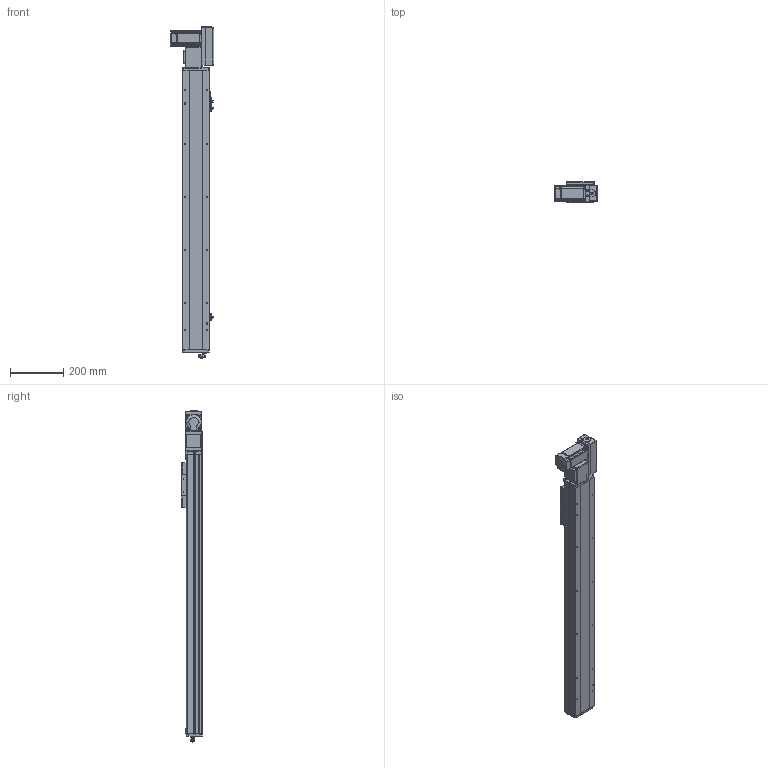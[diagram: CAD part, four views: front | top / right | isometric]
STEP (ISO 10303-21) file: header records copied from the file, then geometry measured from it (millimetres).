
FILE_DESCRIPTION (( 'STEP AP214' ), '1' );
FILE_NAME ('TPE10-L41.6-800-R-P20-C4.STEP', '2023-03-13T02:45:46', ( '' ), ( '' ), 'SwSTEP 2.0', 'SolidWorks 2020', '' );
FILE_SCHEMA (( 'AUTOMOTIVE_DESIGN' ));
Length unit declared in the file: millimetre
Products named in the file (16): 葩璃 TPF10-L-008 耜醱啣^TPE10-L41.6-R-P20-C4; hexagon socket head cap screws gb_GB_FASTENER_SCREWS_HSHCS M3X6-N; 葩璃 侂狟100W^TPE10-L41.6-R-P20-C4; 葩璃 pm-t65-672^TPE10-L41.6-R-P20-C4; 葩璃 TPE10 賑雄殤 TPE10^TPE10-L41.6-R-P20-C4; 葩璃 TPE10-L-002 耜裔ZTMT-102B-04^TPE10-L41.6-R-P20-C4; TPE10-L41.6-800-R-P20-C4; 葩璃 TPE10-L-001 菁釱MZ-102A-01^TPE10-L41.6-R-P20-C4; 葩璃 TPF10 詩湍揤啣 TPF10 12^TPE10-L41.6-R-P20-C4; 葩璃 詩湍75^TPE10-L41.6-R-P20-C4; hexagon head bolts-full thread gb_GB_FASTENER_BOLT_STBAB A M5X16-N; 葩璃 侂狟400W^TPE10-L41.6-R-P20-C4; 葩璃 TPT10-L-009 萇儂啣^TPE10-L41.6-R-P20-C4_200W; hex nuts, style 1-grades ab gb_GB_FASTENER_NUT_SNAB1 M3-N; 葩璃 PL8-02^TPE10-L41.6-R-P20-C4; 葩璃 TPE10-007 々湍釱MZ-169x88^TPE10-L41.6-R-P20-C4
Assembly tree (29 placements, depth 2):
  TPE10-L41.6-800-R-P20-C4
    葩璃 TPE10-L-001 菁釱MZ-102A-01^TPE10-L41.6-R-P20-C4
    葩璃 TPE10-L-002 耜裔ZTMT-102B-04^TPE10-L41.6-R-P20-C4  x2
    葩璃 詩湍75^TPE10-L41.6-R-P20-C4
    葩璃 TPE10-007 々湍釱MZ-169x88^TPE10-L41.6-R-P20-C4
    葩璃 TPF10-L-008 耜醱啣^TPE10-L41.6-R-P20-C4
    葩璃 TPE10 賑雄殤 TPE10^TPE10-L41.6-R-P20-C4
    葩璃 TPF10 詩湍揤啣 TPF10 12^TPE10-L41.6-R-P20-C4  x2
    葩璃 TPT10-L-009 萇儂啣^TPE10-L41.6-R-P20-C4_200W
    葩璃 pm-t65-672^TPE10-L41.6-R-P20-C4  x3
    葩璃 PL8-02^TPE10-L41.6-R-P20-C4
    葩璃 侂狟100W^TPE10-L41.6-R-P20-C4
    葩璃 侂狟400W^TPE10-L41.6-R-P20-C4
    hexagon socket head cap screws gb_GB_FASTENER_SCREWS_HSHCS M3X6-N  x6
    hex nuts, style 1-grades ab gb_GB_FASTENER_NUT_SNAB1 M3-N  x6
    hexagon head bolts-full thread gb_GB_FASTENER_BOLT_STBAB A M5X16-N
Bounding box: 162.5 x 78.5 x 1247 mm (x, y, z)
Volume: 4106110.3 mm3; surface area: 1026362.9 mm2
Topology: 37 solids, 37 shells, 2029 faces, 5201 edges, 3304 vertices
Faces by surface type: plane 1106, cylinder 637, cone 216, bspline 42, torus 26, sphere 2
Entity records: 50712 total; most frequent: CARTESIAN_POINT 10486, DIRECTION 8144, ORIENTED_EDGE 7842, EDGE_CURVE 3921, AXIS2_PLACEMENT_3D 2860, VERTEX_POINT 2531, VECTOR 2424, LINE 2424
